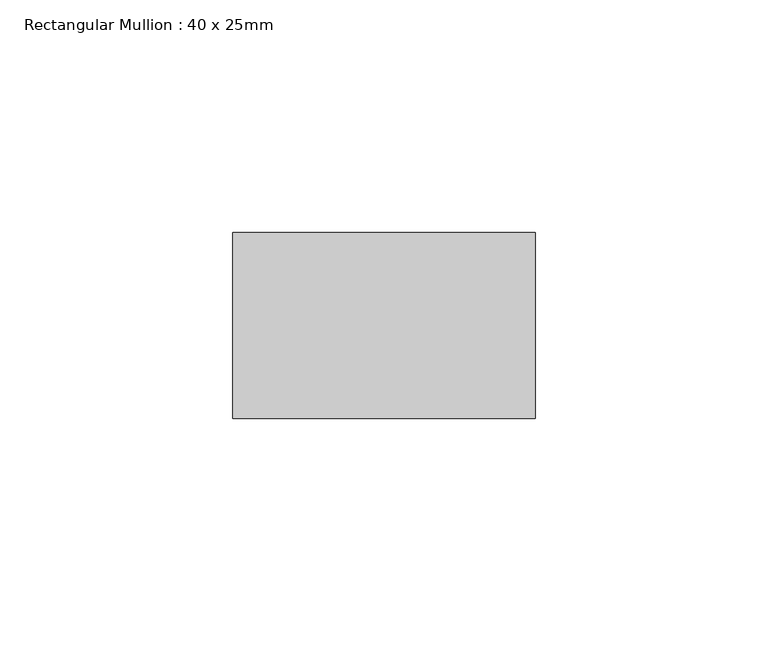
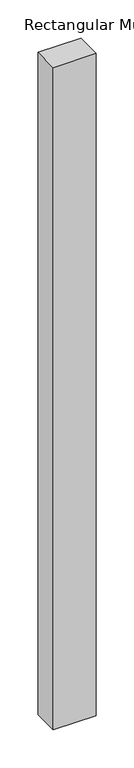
"""IFC4 building model written with IfcOpenShell, lengths in millimetres: member geometry, Rectangular Mullion : 40 x 25mm."""

from ifc_helpers import new_model, si_unit, frame, origin, place, context, project, spatial, polyline, outline, extrude, source, transform, mapped, element, save


def rectangular_mullion_40_x_25mm_b6ee328a(model_context):
    return source(origin(), model_context, "Body", "SweptSolid", [
        extrude(outline(polyline([(0.0, -20.0), (0.0, -60.0), (-65.0, -60.0), (-65.0, -20.0), (0.0, -20.0)])), frame((0.0, 0.0, -1060.0), z_axis=(0.0, 0.0, 1.0), x_axis=(1.0, 0.0, 0.0)), (0.0, 0.0, 1.0), 1060.0),
    ])


if __name__ == "__main__":
    model = new_model("IFC4")
    model_context = context("Model", 3, world=origin())
    ifc_project = project(units=[si_unit("LENGTHUNIT", "METRE", prefix="MILLI")], contexts=[model_context])
    site = spatial("IfcSite", under=ifc_project)
    building = spatial("IfcBuilding", under=site)
    placement = place(None, origin())
    rectangular_mullion_40_x_25mm_shape = rectangular_mullion_40_x_25mm_b6ee328a(model_context)
    element("IfcMember", 1, ObjectType="Rectangular Mullion : 40 x 25mm", at=placement, inside=building, context=model_context, shape_type="MappedRepresentation", body=[
        mapped(rectangular_mullion_40_x_25mm_shape, transform((0.0, 0.0, 0.0), x_axis=(1.0, 0.0, 0.0), y_axis=(0.0, 1.0, 0.0), z_axis=(0.0, 0.0, 1.0))),
    ])
    save(model, "model.ifc")
